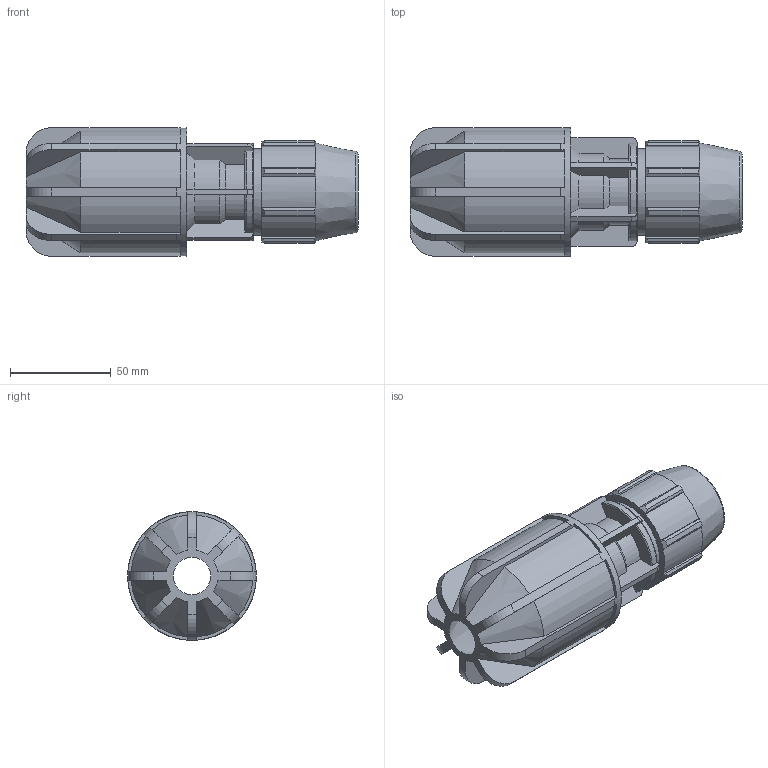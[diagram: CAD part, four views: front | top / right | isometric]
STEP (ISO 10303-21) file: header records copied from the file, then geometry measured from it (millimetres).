
FILE_DESCRIPTION(/* description */ ('PLASSON PLASS4 COUPLING 3/4'''' - 0.73'),/* implementation_level */ '2;1');
FILE_NAME(/* name */ 'C:\Dropbox\KIMPROJECTS-Inventor 2019\99-16-3568-Processing Inch\ASTM Compression 2021\070170M0\070170M07022.ipt.stp',/* time_stamp */ '2021-08-26T12:28:47+03:00',/* author */ ('KIM'),/* organization */ (''),/* preprocessor_version */ 'ST-DEVELOPER v17.2',/* originating_system */ 'Autodesk Inventor 2019',/* authorisation */ '');
FILE_SCHEMA (('AUTOMOTIVE_DESIGN { 1 0 10303 214 3 1 1 }'));
Length unit declared in the file: inch
Products named in the file (1): 070170M07022
Bounding box: 165.1 x 64.01 x 64.01 mm (x, y, z)
Volume: 229571.4 mm3; surface area: 58135.9 mm2
Topology: 1 solids, 1 shells, 220 faces, 639 edges, 426 vertices
Faces by surface type: plane 111, cylinder 61, cone 34, torus 14
Full cylindrical faces by diameter (mm): 23.94 x1, 26.6 x1, 29.353 x1, 43.282 x1, 64.008 x1
Entity records: 7688 total; most frequent: CARTESIAN_POINT 1646, ORIENTED_EDGE 1278, DIRECTION 1191, EDGE_CURVE 639, AXIS2_PLACEMENT_3D 427, VERTEX_POINT 426, LINE 337, VECTOR 337
